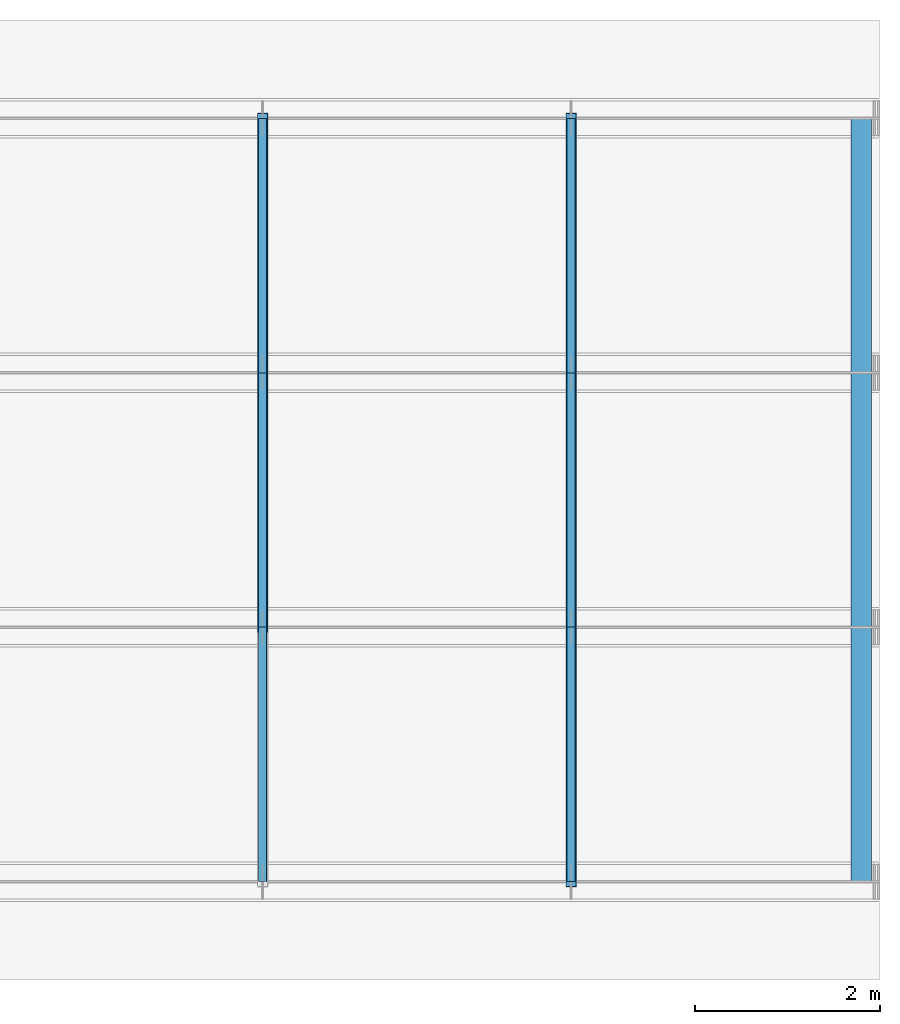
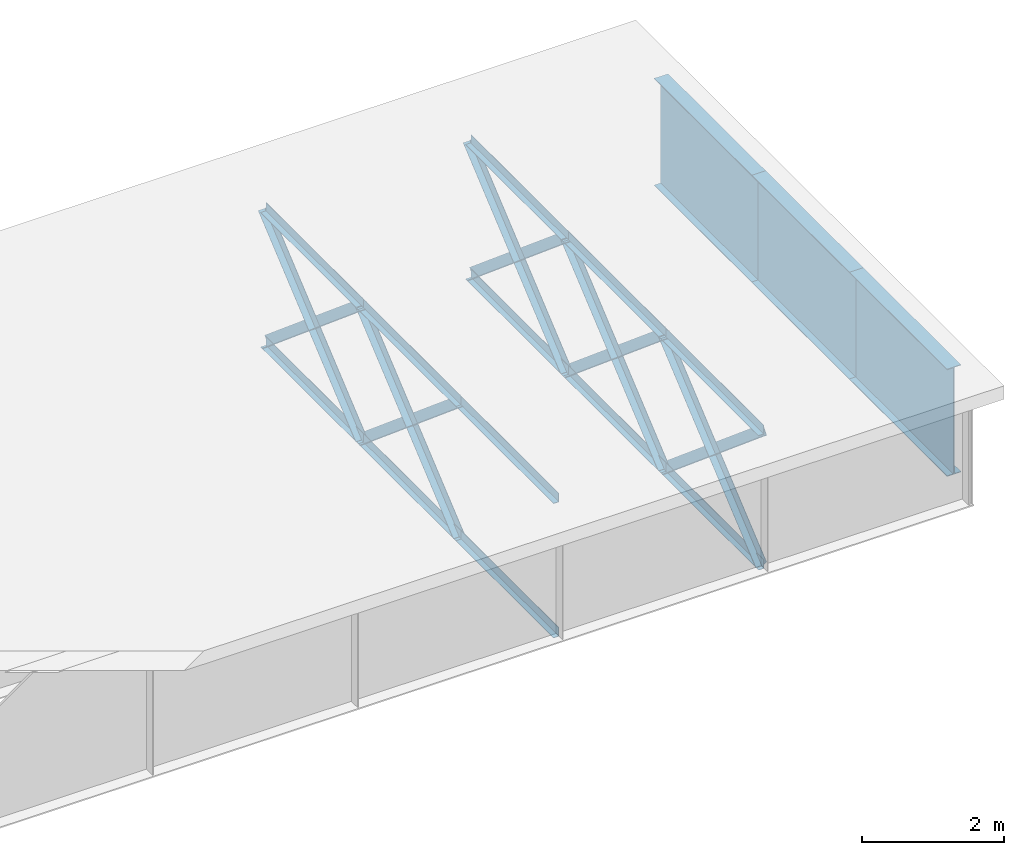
# One storey, part 2 of 13: 25 members.
"""IFC4 building model written with IfcOpenShell, lengths in metres."""

from ifc_helpers import new_model, si_unit, frame, origin, origin_with_axes, origin_2d_with_axis, place, context, subcontext, project, spatial, i_section, l_section, extrude, element, save


model = new_model("IFC4")

# Units and contexts
model_context = context("Model", 3, precision=1e-05, world=origin())
body_context = subcontext(model_context, "Body", "Model", "MODEL_VIEW")
ifc_project = project(units=[si_unit("LENGTHUNIT", "METRE"), si_unit("AREAUNIT", "SQUARE_METRE"), si_unit("VOLUMEUNIT", "CUBIC_METRE"), si_unit("PLANEANGLEUNIT", "RADIAN")], contexts=[model_context])

# Site, building, storey
site_placement = place(None, origin_with_axes())
site = spatial("IfcSite", under=ifc_project, at=site_placement, Name="Default Site")
building_placement = place(site_placement, origin_with_axes())
building = spatial("IfcBuilding", under=site, at=building_placement, Name="Bridge Structure")
storey_placement = place(building_placement, origin_with_axes())
storey = spatial("IfcBuildingStorey", under=building, at=storey_placement, Name="Superstructure")

# Members
for number, where, z_axis, x_axis, name in (
    (1, (33.333333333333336, -4.125, -1.155), (0.0, 1.0, 0.0), (-1.0, 0.0, 0.0), "Bottom Chord"),
    (2, (33.333333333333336, -4.125, 1.155), (0.0, 1.0, 0.0), (-1.0, 0.0, 0.0), "Top Chord"),
):
    element("IfcMember", number, at=place(storey_placement, frame(where, z_axis=z_axis, x_axis=x_axis)), inside=storey, Name=name, context=body_context, shape_type="SweptSolid", body=[
        extrude(l_section(Depth=0.15, Width=0.092, Thickness=0.008, at=origin_2d_with_axis()), origin_with_axes(), (0.0, 0.0, 1.0), 2.75),
    ])
for number, where, z_axis, x_axis, name in (
    (3, (33.333333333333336, -1.375, 1.155), (0.0, 0.7657048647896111, -0.6431920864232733), (-1.0, 0.0, 0.0), "Diagonal Brace"),
    (4, (33.333333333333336, -1.375, -1.155), (0.0, 0.7657048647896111, 0.6431920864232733), (-1.0, 0.0, 0.0), "Diagonal Brace"),
):
    element("IfcMember", number, at=place(storey_placement, frame(where, z_axis=z_axis, x_axis=x_axis)), inside=storey, Name=name, context=body_context, shape_type="SweptSolid", body=[
        extrude(l_section(Depth=0.17300000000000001, Width=0.115, Thickness=0.008, at=origin_2d_with_axis()), origin_with_axes(), (0.0, 0.0, 1.0), 3.591462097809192),
    ])
for number, where, z_axis, x_axis, name in (
    (5, (33.333333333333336, -1.375, -1.155), (0.0, 1.0, 0.0), (-1.0, 0.0, 0.0), "Bottom Chord"),
    (6, (33.333333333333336, -1.375, 1.155), (0.0, 1.0, 0.0), (-1.0, 0.0, 0.0), "Top Chord"),
):
    element("IfcMember", number, at=place(storey_placement, frame(where, z_axis=z_axis, x_axis=x_axis)), inside=storey, Name=name, context=body_context, shape_type="SweptSolid", body=[
        extrude(l_section(Depth=0.15, Width=0.092, Thickness=0.008, at=origin_2d_with_axis()), origin_with_axes(), (0.0, 0.0, 1.0), 2.75),
    ])
for number, where, z_axis, x_axis, name in (
    (7, (33.333333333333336, 1.375, 1.155), (0.0, 0.7657048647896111, -0.6431920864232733), (-1.0, 0.0, 0.0), "Diagonal Brace"),
    (8, (33.333333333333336, 1.375, -1.155), (0.0, 0.7657048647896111, 0.6431920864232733), (-1.0, 0.0, 0.0), "Diagonal Brace"),
):
    element("IfcMember", number, at=place(storey_placement, frame(where, z_axis=z_axis, x_axis=x_axis)), inside=storey, Name=name, context=body_context, shape_type="SweptSolid", body=[
        extrude(l_section(Depth=0.17300000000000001, Width=0.115, Thickness=0.008, at=origin_2d_with_axis()), origin_with_axes(), (0.0, 0.0, 1.0), 3.591462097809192),
    ])
for number, where, z_axis, x_axis, name in (
    (9, (33.333333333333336, 1.375, -1.155), (0.0, 1.0, 0.0), (-1.0, 0.0, 0.0), "Bottom Chord"),
    (10, (33.333333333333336, 1.375, 1.155), (0.0, 1.0, 0.0), (-1.0, 0.0, 0.0), "Top Chord"),
):
    element("IfcMember", number, at=place(storey_placement, frame(where, z_axis=z_axis, x_axis=x_axis)), inside=storey, Name=name, context=body_context, shape_type="SweptSolid", body=[
        extrude(l_section(Depth=0.15, Width=0.092, Thickness=0.008, at=origin_2d_with_axis()), origin_with_axes(), (0.0, 0.0, 1.0), 2.75),
    ])
for number, where, z_axis, x_axis, name in (
    (11, (36.66666666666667, -4.125, 1.155), (0.0, 0.7657048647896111, -0.6431920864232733), (-1.0, 0.0, 0.0), "Diagonal Brace"),
    (12, (36.66666666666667, -4.125, -1.155), (0.0, 0.7657048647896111, 0.6431920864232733), (-1.0, 0.0, 0.0), "Diagonal Brace"),
):
    element("IfcMember", number, at=place(storey_placement, frame(where, z_axis=z_axis, x_axis=x_axis)), inside=storey, Name=name, context=body_context, shape_type="SweptSolid", body=[
        extrude(l_section(Depth=0.17300000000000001, Width=0.115, Thickness=0.008, at=origin_2d_with_axis()), origin_with_axes(), (0.0, 0.0, 1.0), 3.591462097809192),
    ])
for number, where, z_axis, x_axis, name in (
    (13, (36.66666666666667, -4.125, -1.155), (0.0, 1.0, 0.0), (-1.0, 0.0, 0.0), "Bottom Chord"),
    (14, (36.66666666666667, -4.125, 1.155), (0.0, 1.0, 0.0), (-1.0, 0.0, 0.0), "Top Chord"),
):
    element("IfcMember", number, at=place(storey_placement, frame(where, z_axis=z_axis, x_axis=x_axis)), inside=storey, Name=name, context=body_context, shape_type="SweptSolid", body=[
        extrude(l_section(Depth=0.15, Width=0.092, Thickness=0.008, at=origin_2d_with_axis()), origin_with_axes(), (0.0, 0.0, 1.0), 2.75),
    ])
for number, where, z_axis, x_axis, name in (
    (15, (36.66666666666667, -1.375, 1.155), (0.0, 0.7657048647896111, -0.6431920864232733), (-1.0, 0.0, 0.0), "Diagonal Brace"),
    (16, (36.66666666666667, -1.375, -1.155), (0.0, 0.7657048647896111, 0.6431920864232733), (-1.0, 0.0, 0.0), "Diagonal Brace"),
):
    element("IfcMember", number, at=place(storey_placement, frame(where, z_axis=z_axis, x_axis=x_axis)), inside=storey, Name=name, context=body_context, shape_type="SweptSolid", body=[
        extrude(l_section(Depth=0.17300000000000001, Width=0.115, Thickness=0.008, at=origin_2d_with_axis()), origin_with_axes(), (0.0, 0.0, 1.0), 3.591462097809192),
    ])
for number, where, z_axis, x_axis, name in (
    (17, (36.66666666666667, -1.375, -1.155), (0.0, 1.0, 0.0), (-1.0, 0.0, 0.0), "Bottom Chord"),
    (18, (36.66666666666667, -1.375, 1.155), (0.0, 1.0, 0.0), (-1.0, 0.0, 0.0), "Top Chord"),
):
    element("IfcMember", number, at=place(storey_placement, frame(where, z_axis=z_axis, x_axis=x_axis)), inside=storey, Name=name, context=body_context, shape_type="SweptSolid", body=[
        extrude(l_section(Depth=0.15, Width=0.092, Thickness=0.008, at=origin_2d_with_axis()), origin_with_axes(), (0.0, 0.0, 1.0), 2.75),
    ])
for number, where, z_axis, x_axis, name in (
    (19, (36.66666666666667, 1.375, 1.155), (0.0, 0.7657048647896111, -0.6431920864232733), (-1.0, 0.0, 0.0), "Diagonal Brace"),
    (20, (36.66666666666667, 1.375, -1.155), (0.0, 0.7657048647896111, 0.6431920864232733), (-1.0, 0.0, 0.0), "Diagonal Brace"),
):
    element("IfcMember", number, at=place(storey_placement, frame(where, z_axis=z_axis, x_axis=x_axis)), inside=storey, Name=name, context=body_context, shape_type="SweptSolid", body=[
        extrude(l_section(Depth=0.17300000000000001, Width=0.115, Thickness=0.008, at=origin_2d_with_axis()), origin_with_axes(), (0.0, 0.0, 1.0), 3.591462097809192),
    ])
for number, where, z_axis, x_axis, name in (
    (21, (36.66666666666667, 1.375, -1.155), (0.0, 1.0, 0.0), (-1.0, 0.0, 0.0), "Bottom Chord"),
    (22, (36.66666666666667, 1.375, 1.155), (0.0, 1.0, 0.0), (-1.0, 0.0, 0.0), "Top Chord"),
):
    element("IfcMember", number, at=place(storey_placement, frame(where, z_axis=z_axis, x_axis=x_axis)), inside=storey, Name=name, context=body_context, shape_type="SweptSolid", body=[
        extrude(l_section(Depth=0.15, Width=0.092, Thickness=0.008, at=origin_2d_with_axis()), origin_with_axes(), (0.0, 0.0, 1.0), 2.75),
    ])
for number, where, z_axis, x_axis, name in (
    (23, (39.800000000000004, -4.125, 0.231), (0.0, 1.0, 0.0), (-1.0, 0.0, 0.0), "End Diaphragm"),
    (24, (39.800000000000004, -1.375, 0.231), (0.0, 1.0, 0.0), (-1.0, 0.0, 0.0), "End Diaphragm"),
    (25, (39.800000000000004, 1.375, 0.231), (0.0, 1.0, 0.0), (-1.0, 0.0, 0.0), "End Diaphragm"),
):
    element("IfcMember", number, at=place(storey_placement, frame(where, z_axis=z_axis, x_axis=x_axis)), inside=storey, Name=name, context=body_context, shape_type="SweptSolid", body=[
        extrude(i_section(OverallWidth=0.225, OverallDepth=1.848, WebThickness=0.02, FlangeThickness=0.012, at=origin_2d_with_axis()), origin_with_axes(), (0.0, 0.0, 1.0), 2.75),
    ])

save(model, "model.ifc")
